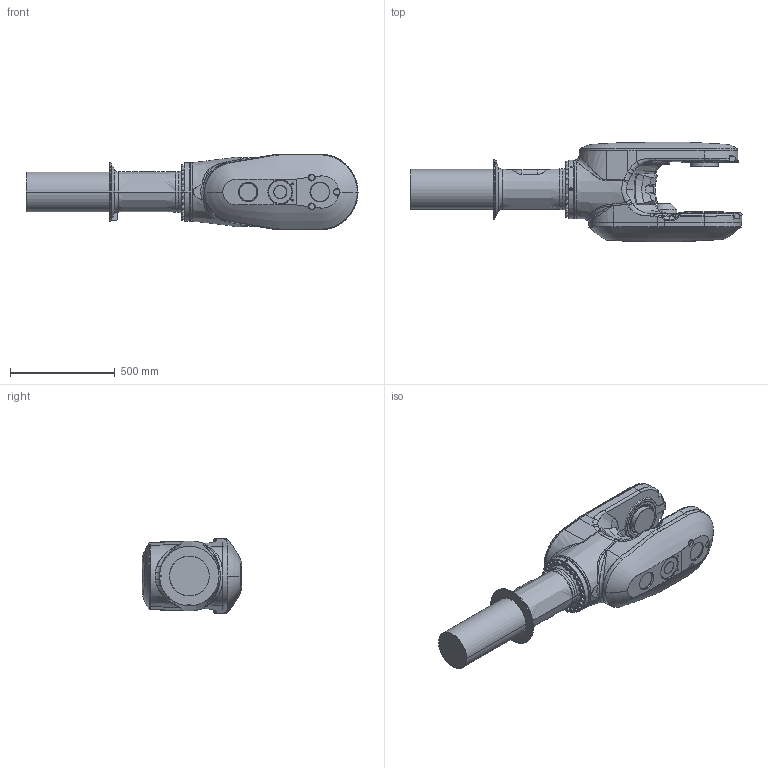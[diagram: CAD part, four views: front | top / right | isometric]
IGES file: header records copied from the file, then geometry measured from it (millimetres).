
Start section: SolidWorks IGES file using analytic representation for surfaces
Global section: file name: C:\Users\SEJAOLS6\OneDrive - ABB\Documents\SAP\7710\7710_Lightweight_models\IRB7710-LID-SW_400kg-285_OC_01_SW_J\IRB7710-LID-SW_400kg-285_OC_01_IGES_J\IRB7710_All-285_OC_00_LINK04_CAD.igs; native system: SolidWorks 2024; preprocessor: SolidWorks 2024; author: SEJAOLS6; date: 260127.071723; units: millimetre
Bounding box: 1586.38 x 475.5 x 362.32 mm (x, y, z)
Surface area: 1925774.7 mm2 (no closed solid volume)
Topology: 0 solids, 0 shells, 772 faces, 13572 edges, 13553 vertices
Faces by surface type: bspline 421, revolution 351
